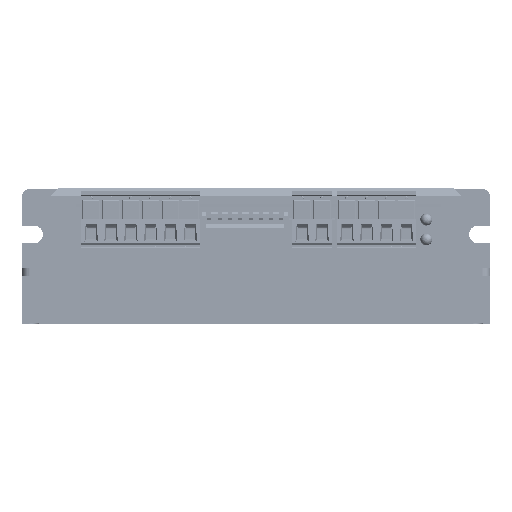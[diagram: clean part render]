
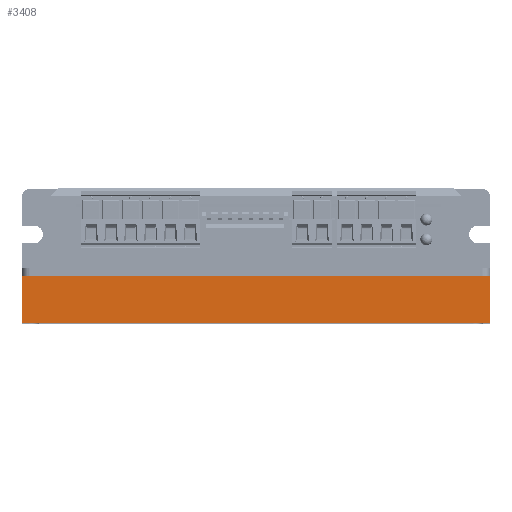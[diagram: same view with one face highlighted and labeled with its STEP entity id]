
A CAD part, top view. The second image highlights one B-rep face of the part: STEP entity #3408.
In plain terms, the highlighted planar face has unit normal (0, 0, 1).
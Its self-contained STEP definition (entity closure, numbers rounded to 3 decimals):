
#737=DIRECTION('',(-1.,0.,0.));
#738=VECTOR('',#737,118.);
#739=CARTESIAN_POINT('',(59.,-8.5,37.75));
#740=LINE('',#739,#738);
#1049=DIRECTION('',(1.,0.,0.));
#1050=VECTOR('',#1049,118.);
#1051=CARTESIAN_POINT('',(-59.,3.5,37.75));
#1052=LINE('',#1051,#1050);
#1167=DIRECTION('',(0.,-1.,0.));
#1168=VECTOR('',#1167,12.);
#1169=CARTESIAN_POINT('',(59.,3.5,37.75));
#1170=LINE('',#1169,#1168);
#1171=DIRECTION('',(0.,1.,0.));
#1172=VECTOR('',#1171,12.);
#1173=CARTESIAN_POINT('',(-59.,-8.5,37.75));
#1174=LINE('',#1173,#1172);
#1676=CARTESIAN_POINT('',(-59.,3.5,37.75));
#1677=CARTESIAN_POINT('',(59.,3.5,37.75));
#1678=VERTEX_POINT('',#1676);
#1679=VERTEX_POINT('',#1677);
#1940=CARTESIAN_POINT('',(-59.,-8.5,37.75));
#1942=VERTEX_POINT('',#1940);
#1946=CARTESIAN_POINT('',(59.,-8.5,37.75));
#1947=VERTEX_POINT('',#1946);
#3397=CARTESIAN_POINT('',(-59.,0.,37.75));
#3398=DIRECTION('',(0.,0.,1.));
#3399=DIRECTION('',(1.,0.,0.));
#3400=AXIS2_PLACEMENT_3D('',#3397,#3398,#3399);
#3401=PLANE('',#3400);
#3402=ORIENTED_EDGE('',*,*,#3100,.T.);
#3403=ORIENTED_EDGE('',*,*,#2924,.T.);
#3404=ORIENTED_EDGE('',*,*,#2685,.T.);
#3405=ORIENTED_EDGE('',*,*,#3318,.T.);
#3406=EDGE_LOOP('',(#3402,#3403,#3404,#3405));
#3407=FACE_OUTER_BOUND('',#3406,.F.);
#3408=ADVANCED_FACE('',(#3407),#3401,.T.);
#2685=EDGE_CURVE('',#1942,#1678,#1174,.T.);
#2924=EDGE_CURVE('',#1947,#1942,#740,.T.);
#3100=EDGE_CURVE('',#1679,#1947,#1170,.T.);
#3318=EDGE_CURVE('',#1678,#1679,#1052,.T.);
